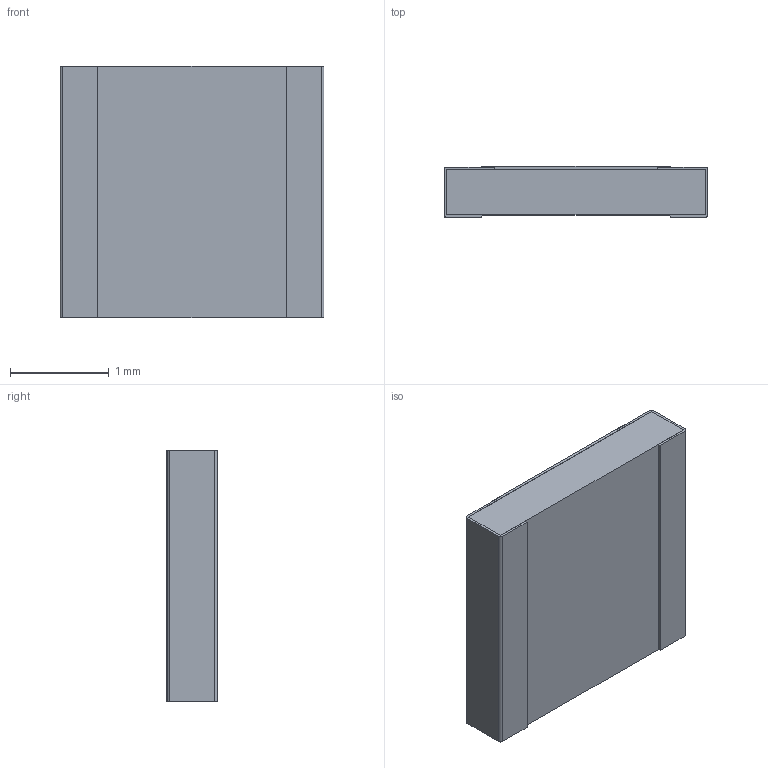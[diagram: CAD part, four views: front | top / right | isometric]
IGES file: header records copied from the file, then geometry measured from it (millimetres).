
Global section: file name: PTN1010; native system: Autodesk Inventor LT ; preprocessor: unknown; author: Neil; date: 20200108.145452; units: inch
Bounding box: 2.67 x 0.52 x 2.54 mm (x, y, z)
Volume: 3.4 mm3; surface area: 47.6 mm2
Topology: 5 solids, 5 shells, 98 faces, 264 edges, 176 vertices
Faces by surface type: bspline 98
